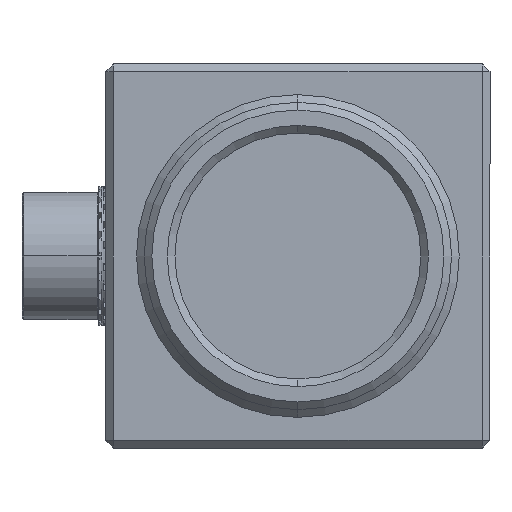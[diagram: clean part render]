
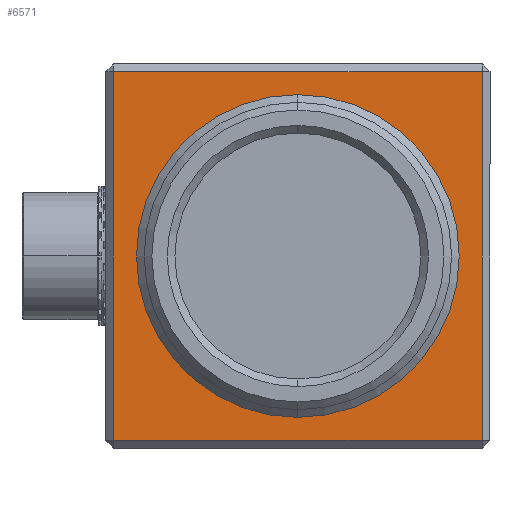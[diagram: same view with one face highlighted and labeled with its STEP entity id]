
A CAD part, left-side view. The second image highlights one B-rep face of the part: STEP entity #6571.
In plain terms, the highlighted planar face has unit normal (-1, 0, 0) as drawn and (0, 0, 1) by its records, which use the part's own axes.
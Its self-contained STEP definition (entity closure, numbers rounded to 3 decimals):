
#98 = VERTEX_POINT ( 'NONE', #5971 ) ;
#116 = DIRECTION ( 'NONE',  ( -1., 0., 0. ) ) ;
#291 = VECTOR ( 'NONE', #8342, 1000. ) ;
#545 = EDGE_CURVE ( 'NONE', #9116, #4037, #5364, .T. ) ;
#776 = CARTESIAN_POINT ( 'NONE',  ( 0., 0., 28. ) ) ;
#859 = DIRECTION ( 'NONE',  ( -1., 0., 0. ) ) ;
#1252 = CARTESIAN_POINT ( 'NONE',  ( 12., -12., 28. ) ) ;
#1297 = VECTOR ( 'NONE', #6023, 1000. ) ;
#1383 = LINE ( 'NONE', #4833, #5663 ) ;
#1436 = LINE ( 'NONE', #2333, #291 ) ;
#1540 = CARTESIAN_POINT ( 'NONE',  ( 0., 0., 28. ) ) ;
#1842 = EDGE_CURVE ( 'NONE', #8914, #98, #10217, .T. ) ;
#2333 = CARTESIAN_POINT ( 'NONE',  ( 0., 12., 28. ) ) ;
#2517 = DIRECTION ( 'NONE',  ( -1., 0., 0. ) ) ;
#2557 = CARTESIAN_POINT ( 'NONE',  ( 0., -12., 28. ) ) ;
#2623 = ORIENTED_EDGE ( 'NONE', *, *, #5724, .T. ) ;
#3575 = CARTESIAN_POINT ( 'NONE',  ( 10.5, 0., 28. ) ) ;
#3813 = CARTESIAN_POINT ( 'NONE',  ( -12., -12., 28. ) ) ;
#3973 = EDGE_CURVE ( 'NONE', #5119, #8914, #10170, .T. ) ;
#4037 = VERTEX_POINT ( 'NONE', #3575 ) ;
#4145 = CIRCLE ( 'NONE', #10492, 10.5 ) ;
#4221 = ORIENTED_EDGE ( 'NONE', *, *, #3973, .T. ) ;
#4295 = PLANE ( 'NONE',  #10950 ) ;
#4799 = EDGE_CURVE ( 'NONE', #4037, #9116, #4145, .T. ) ;
#4833 = CARTESIAN_POINT ( 'NONE',  ( -12., 0., 28. ) ) ;
#5044 = CARTESIAN_POINT ( 'NONE',  ( 12., 0., 28. ) ) ;
#5056 = ORIENTED_EDGE ( 'NONE', *, *, #4799, .T. ) ;
#5119 = VERTEX_POINT ( 'NONE', #3813 ) ;
#5154 = DIRECTION ( 'NONE',  ( 0., 0., -1. ) ) ;
#5364 = CIRCLE ( 'NONE', #10627, 10.5 ) ;
#5522 = EDGE_LOOP ( 'NONE', ( #9542, #5056 ) ) ;
#5663 = VECTOR ( 'NONE', #8125, 1000. ) ;
#5724 = EDGE_CURVE ( 'NONE', #8838, #5119, #1383, .T. ) ;
#5971 = CARTESIAN_POINT ( 'NONE',  ( 12., 12., 28. ) ) ;
#6023 = DIRECTION ( 'NONE',  ( 1., 0., 0. ) ) ;
#6571 = ADVANCED_FACE ( 'NONE', ( #7869, #9469 ), #4295, .F. ) ;
#7125 = EDGE_LOOP ( 'NONE', ( #2623, #4221, #7928, #8507 ) ) ;
#7360 = EDGE_CURVE ( 'NONE', #98, #8838, #1436, .T. ) ;
#7869 = FACE_BOUND ( 'NONE', #5522, .T. ) ;
#7928 = ORIENTED_EDGE ( 'NONE', *, *, #1842, .T. ) ;
#7932 = CARTESIAN_POINT ( 'NONE',  ( -10.5, 0., 28. ) ) ;
#8125 = DIRECTION ( 'NONE',  ( 0., -1., 0. ) ) ;
#8342 = DIRECTION ( 'NONE',  ( -1., 0., 0. ) ) ;
#8496 = CARTESIAN_POINT ( 'NONE',  ( 0., 0., 28. ) ) ;
#8507 = ORIENTED_EDGE ( 'NONE', *, *, #7360, .T. ) ;
#8680 = DIRECTION ( 'NONE',  ( 0., 1., 0. ) ) ;
#8710 = DIRECTION ( 'NONE',  ( 0., 0., -1. ) ) ;
#8838 = VERTEX_POINT ( 'NONE', #9709 ) ;
#8914 = VERTEX_POINT ( 'NONE', #1252 ) ;
#9116 = VERTEX_POINT ( 'NONE', #7932 ) ;
#9469 = FACE_OUTER_BOUND ( 'NONE', #7125, .T. ) ;
#9542 = ORIENTED_EDGE ( 'NONE', *, *, #545, .T. ) ;
#9631 = DIRECTION ( 'NONE',  ( 0., 0., -1. ) ) ;
#9709 = CARTESIAN_POINT ( 'NONE',  ( -12., 12., 28. ) ) ;
#10078 = VECTOR ( 'NONE', #8680, 1000. ) ;
#10170 = LINE ( 'NONE', #2557, #1297 ) ;
#10217 = LINE ( 'NONE', #5044, #10078 ) ;
#10492 = AXIS2_PLACEMENT_3D ( 'NONE', #776, #8710, #2517 ) ;
#10627 = AXIS2_PLACEMENT_3D ( 'NONE', #1540, #5154, #859 ) ;
#10950 = AXIS2_PLACEMENT_3D ( 'NONE', #8496, #9631, #116 ) ;
